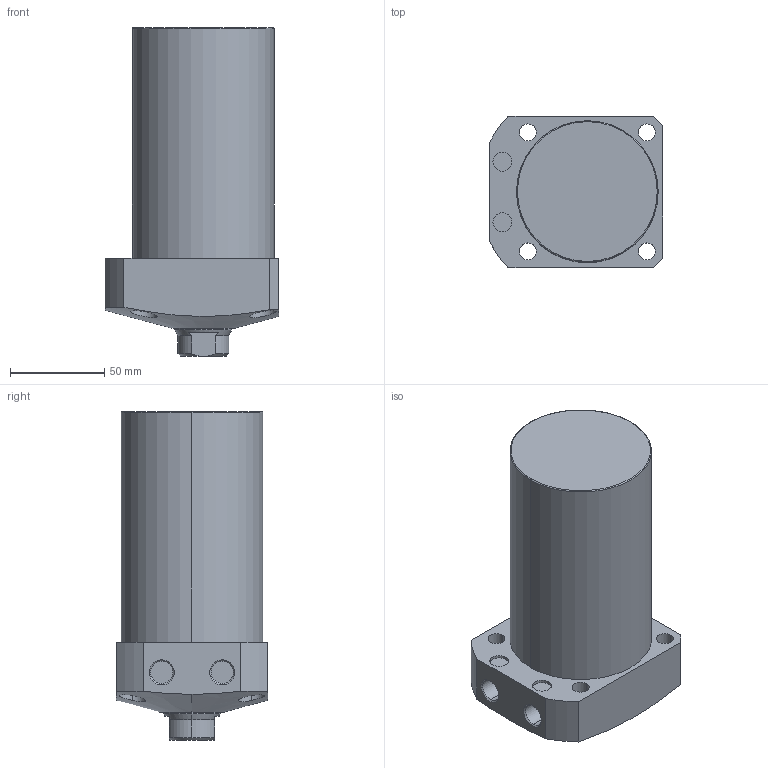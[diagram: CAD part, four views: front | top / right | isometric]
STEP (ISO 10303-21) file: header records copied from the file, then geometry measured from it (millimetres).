
FILE_DESCRIPTION (( 'STEP AP203' ), '1' );
FILE_NAME ('CLL-075CA-085.STEP', '2019-12-23T08:32:42', ( '' ), ( '' ), 'SwSTEP 2.0', 'SolidWorks 2015', '' );
FILE_SCHEMA (( 'CONFIG_CONTROL_DESIGN' ));
Length unit declared in the file: millimetre
Products named in the file (1): CLL-075CA-085
Bounding box: 92 x 80 x 174 mm (x, y, z)
Volume: 758037.4 mm3; surface area: 61079.9 mm2
Topology: 1 solids, 1 shells, 74 faces, 171 edges, 108 vertices
Faces by surface type: cylinder 35, plane 22, cone 15, torus 2
Entity records: 2610 total; most frequent: CARTESIAN_POINT 815, DIRECTION 376, ORIENTED_EDGE 338, EDGE_CURVE 169, AXIS2_PLACEMENT_3D 156, VERTEX_POINT 108, EDGE_LOOP 93, CIRCLE 81
